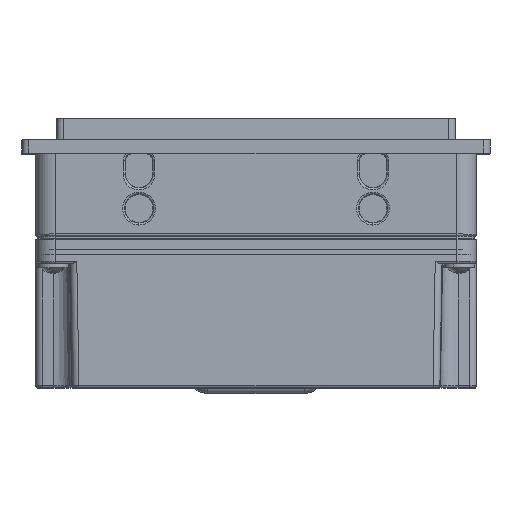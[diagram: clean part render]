
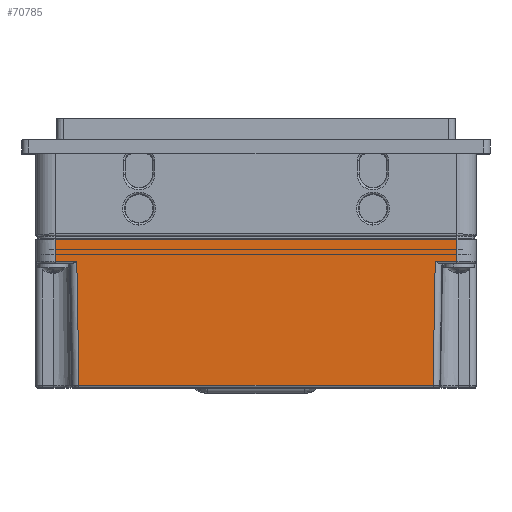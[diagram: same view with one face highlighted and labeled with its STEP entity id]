
A CAD part, top view. The second image highlights one B-rep face of the part: STEP entity #70785.
In plain terms, the highlighted planar face has unit normal (0, 0, 1).
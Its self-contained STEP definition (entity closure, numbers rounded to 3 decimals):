
#593 = EDGE_CURVE ( 'NONE', #8991, #62741, #49275, .T. ) ;
#4420 = EDGE_CURVE ( 'NONE', #66544, #33150, #72845, .T. ) ;
#4445 = LINE ( 'NONE', #17805, #16299 ) ;
#4595 = CARTESIAN_POINT ( 'NONE',  ( 29.2, -10.2, 36.5 ) ) ;
#5139 = DIRECTION ( 'NONE',  ( 1., 0., 0. ) ) ;
#6276 = VERTEX_POINT ( 'NONE', #8938 ) ;
#6982 = CARTESIAN_POINT ( 'NONE',  ( -25.734, -30.709, 36.5 ) ) ;
#8149 = CARTESIAN_POINT ( 'NONE',  ( -29.2, -13.381, 36.5 ) ) ;
#8851 = DIRECTION ( 'NONE',  ( 0., 0., -1. ) ) ;
#8938 = CARTESIAN_POINT ( 'NONE',  ( -25.722, -31.4, 36.5 ) ) ;
#8991 = VERTEX_POINT ( 'NONE', #55587 ) ;
#9148 = CARTESIAN_POINT ( 'NONE',  ( 25.753, -29.591, 36.5 ) ) ;
#11575 = LINE ( 'NONE', #69889, #65615 ) ;
#12038 = CARTESIAN_POINT ( 'NONE',  ( -26.031, -13.381, 36.5 ) ) ;
#12541 = VERTEX_POINT ( 'NONE', #58781 ) ;
#15398 = CARTESIAN_POINT ( 'NONE',  ( 26.037, -13.381, 36.5 ) ) ;
#16299 = VECTOR ( 'NONE', #47671, 1000. ) ;
#16645 = VERTEX_POINT ( 'NONE', #4595 ) ;
#17805 = CARTESIAN_POINT ( 'NONE',  ( 25.717, -31.4, 36.5 ) ) ;
#20903 = EDGE_CURVE ( 'NONE', #62741, #58505, #68952, .T. ) ;
#21087 = ORIENTED_EDGE ( 'NONE', *, *, #593, .T. ) ;
#22194 = VECTOR ( 'NONE', #5139, 1000. ) ;
#26235 = FACE_OUTER_BOUND ( 'NONE', #52131, .T. ) ;
#26808 = CARTESIAN_POINT ( 'NONE',  ( 29.2, -13.381, 36.5 ) ) ;
#29154 = DIRECTION ( 'NONE',  ( 1., 0., 0. ) ) ;
#31619 = CARTESIAN_POINT ( 'NONE',  ( -29.2, -10.2, 36.5 ) ) ;
#31644 = ORIENTED_EDGE ( 'NONE', *, *, #75585, .T. ) ;
#31830 = CARTESIAN_POINT ( 'NONE',  ( 32., -29.7, 36.5 ) ) ;
#32261 = CARTESIAN_POINT ( 'NONE',  ( 29.2, -29.7, 36.5 ) ) ;
#32405 = ORIENTED_EDGE ( 'NONE', *, *, #4420, .T. ) ;
#33150 = VERTEX_POINT ( 'NONE', #8149 ) ;
#33707 = VECTOR ( 'NONE', #55626, 1000. ) ;
#34212 = EDGE_CURVE ( 'NONE', #33150, #12541, #53160, .T. ) ;
#34503 = DIRECTION ( 'NONE',  ( 1., 0., 0. ) ) ;
#35995 = LINE ( 'NONE', #32261, #44248 ) ;
#36825 = EDGE_CURVE ( 'NONE', #66544, #16645, #11575, .T. ) ;
#37949 = VECTOR ( 'NONE', #48410, 1000. ) ;
#38312 = AXIS2_PLACEMENT_3D ( 'NONE', #31830, #8851, #73350 ) ;
#40275 = VECTOR ( 'NONE', #34503, 1000. ) ;
#44248 = VECTOR ( 'NONE', #72240, 1000. ) ;
#44960 = ORIENTED_EDGE ( 'NONE', *, *, #65142, .T. ) ;
#45146 = EDGE_CURVE ( 'NONE', #58505, #16645, #35995, .T. ) ;
#46476 = CARTESIAN_POINT ( 'NONE',  ( 29.2, -13.381, 36.5 ) ) ;
#47671 = DIRECTION ( 'NONE',  ( 1., 0., 0. ) ) ;
#47827 = ORIENTED_EDGE ( 'NONE', *, *, #45146, .T. ) ;
#48410 = DIRECTION ( 'NONE',  ( 0., -1., 0. ) ) ;
#48425 = ORIENTED_EDGE ( 'NONE', *, *, #34212, .T. ) ;
#49275 = LINE ( 'NONE', #9148, #33707 ) ;
#50116 = ORIENTED_EDGE ( 'NONE', *, *, #36825, .F. ) ;
#52131 = EDGE_LOOP ( 'NONE', ( #44960, #31644, #21087, #60672, #47827, #50116, #32405, #48425 ) ) ;
#53160 = LINE ( 'NONE', #12038, #40275 ) ;
#53751 = DIRECTION ( 'NONE',  ( 0.017, -1., 0. ) ) ;
#55587 = CARTESIAN_POINT ( 'NONE',  ( 25.722, -31.4, 36.5 ) ) ;
#55626 = DIRECTION ( 'NONE',  ( 0.017, 1., 0. ) ) ;
#58505 = VERTEX_POINT ( 'NONE', #26808 ) ;
#58781 = CARTESIAN_POINT ( 'NONE',  ( -26.037, -13.381, 36.5 ) ) ;
#59032 = LINE ( 'NONE', #6982, #62791 ) ;
#59941 = CARTESIAN_POINT ( 'NONE',  ( -29.2, -29.7, 36.5 ) ) ;
#60672 = ORIENTED_EDGE ( 'NONE', *, *, #20903, .T. ) ;
#62741 = VERTEX_POINT ( 'NONE', #15398 ) ;
#62791 = VECTOR ( 'NONE', #53751, 1000. ) ;
#65142 = EDGE_CURVE ( 'NONE', #12541, #6276, #59032, .T. ) ;
#65615 = VECTOR ( 'NONE', #29154, 1000. ) ;
#65924 = PLANE ( 'NONE',  #38312 ) ;
#66544 = VERTEX_POINT ( 'NONE', #31619 ) ;
#68952 = LINE ( 'NONE', #46476, #22194 ) ;
#69889 = CARTESIAN_POINT ( 'NONE',  ( -29.2, -10.2, 36.5 ) ) ;
#70785 = ADVANCED_FACE ( 'NONE', ( #26235 ), #65924, .F. ) ;
#72240 = DIRECTION ( 'NONE',  ( 0., 1., 0. ) ) ;
#72845 = LINE ( 'NONE', #59941, #37949 ) ;
#73350 = DIRECTION ( 'NONE',  ( 0., 1., 0. ) ) ;
#75585 = EDGE_CURVE ( 'NONE', #6276, #8991, #4445, .T. ) ;
